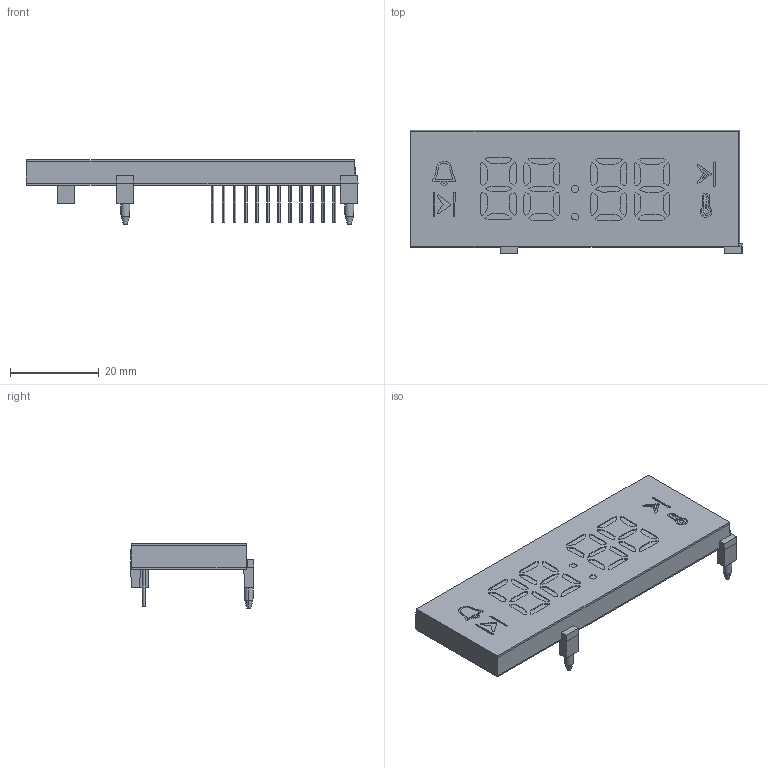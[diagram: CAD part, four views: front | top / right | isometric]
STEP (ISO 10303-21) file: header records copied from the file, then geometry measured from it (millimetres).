
FILE_DESCRIPTION(/* description */ (''),/* implementation_level */ '2;1');
FILE_NAME(/* name */ 'Display',/* time_stamp */ '2024-04-09T12:23:02+02:00',/* author */ (''),/* organization */ (''),/* preprocessor_version */ 'ST-DEVELOPER v19.2',/* originating_system */ 'Rhino 8.3',/* authorisation */ '');
FILE_SCHEMA (('AUTOMOTIVE_DESIGN_CC2'));
Length unit declared in the file: millimetre
Products named in the file (1): Document
Bounding box: 74.92 x 27.82 x 14.6 mm (x, y, z)
Volume: 10227.1 mm3; surface area: 9074.6 mm2
Topology: 13 solids, 14 shells, 765 faces, 2079 edges, 1386 vertices
Faces by surface type: plane 733, cylinder 24, bspline 8
Entity records: 21588 total; most frequent: CARTESIAN_POINT 6511, ORIENTED_EDGE 4122, EDGE_CURVE 2066, B_SPLINE_CURVE_WITH_KNOTS 1983, VERTEX_POINT 1373, DIRECTION 909, AXIS2_PLACEMENT_3D 833, EDGE_LOOP 810
